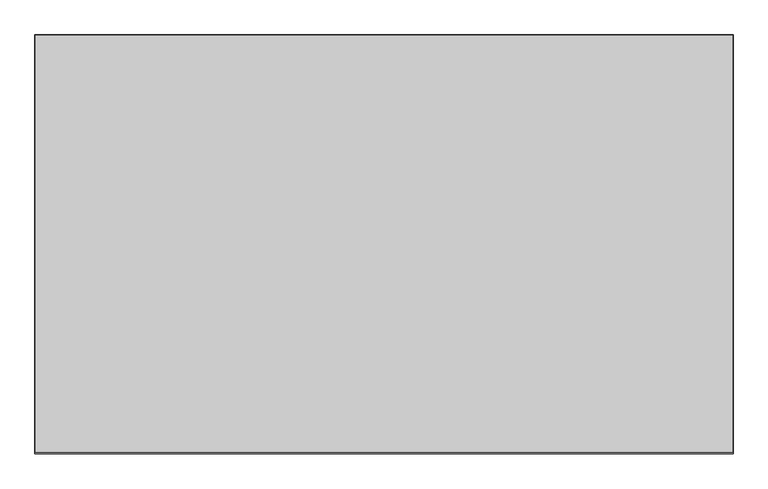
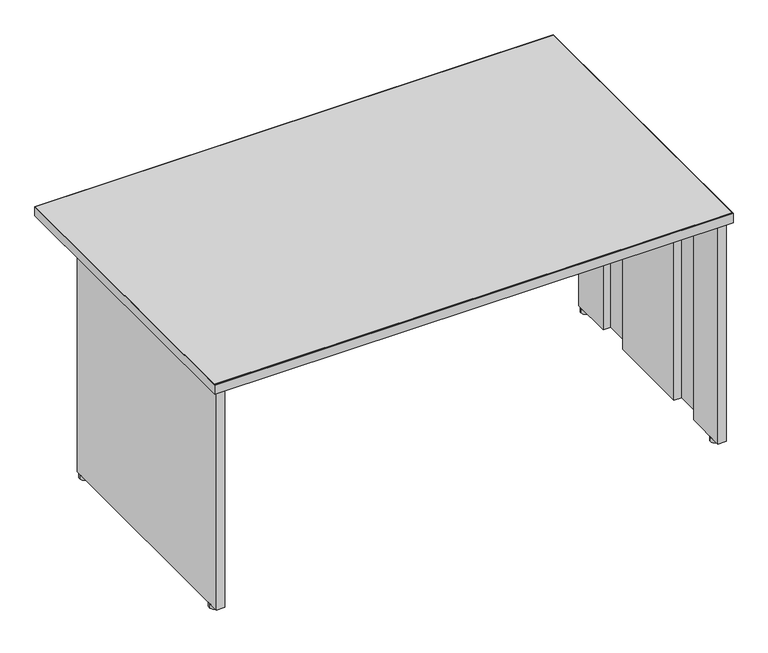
"""IFC4 building model written with IfcOpenShell, lengths in millimetres: furniture geometry, Steelcase - Kick Freestanding - Desk Shell - Partial Height Modesty Panel : 36D x 60W."""

from ifc_helpers import new_model, si_unit, point, frame, frame_2d, origin, origin_with_axes, place, context, project, spatial, polyline, circle_curve, trimmed, segment, composite_curve, outline, extrude, source, transform, mapped, element, save


def furniture_c0c023b2(model_context):
    return source(origin(), model_context, "Body", "SweptSolid", [
        extrude(outline(polyline([(677.0450425, -1152.3647597), (677.0450425, -1126.9647604), (2126.6738425, -1126.9647604), (2126.6738425, -1152.3647597), (677.0450425, -1152.3647597)])), frame((0.0, 0.0, 390.144), z_axis=(0.0, 0.0, 1.0), x_axis=(1.0, 0.0, 0.0)), (0.0, 0.0, 1.0), 304.8),
        extrude(outline(composite_curve([segment(trimmed(circle_curve(frame_2d((665.1357759, -1139.3367877)), 13.97), [point((651.1657759, -1139.3367877))], [point((679.1057759, -1139.3367877))], False, "CARTESIAN"), True, "CONTINUOUS"), segment(trimmed(circle_curve(frame_2d((665.1357759, -1139.3367877)), 13.97), [point((679.1057759, -1139.3367877))], [point((651.1657759, -1139.3367877))], False, "CARTESIAN"), True, "CONTINUOUS")], self_intersect=False)), origin_with_axes(), (0.0, 0.0, 1.0), 12.446),
        extrude(outline(composite_curve([segment(trimmed(circle_curve(frame_2d((665.1357759, -1798.4441481)), 13.97), [point((651.1657759, -1798.4441481))], [point((679.1057759, -1798.4441481))], False, "CARTESIAN"), True, "CONTINUOUS"), segment(trimmed(circle_curve(frame_2d((665.1357759, -1798.4441481)), 13.97), [point((679.1057759, -1798.4441481))], [point((651.1657759, -1798.4441481))], False, "CARTESIAN"), True, "CONTINUOUS")], self_intersect=False)), origin_with_axes(), (0.0, 0.0, 1.0), 12.446),
        extrude(outline(polyline([(2126.6738425, -1248.4529604), (2126.6738425, -1125.1867604), (2151.1594421, -1125.1867604), (2151.1594421, -1833.338741), (2126.6738421, -1833.338741), (2126.6738421, -1709.0311348), (2149.1020425, -1709.0311348), (2149.1020425, -1609.3107682), (2126.6738421, -1609.3107682), (2126.6738421, -1348.1733647), (2149.1020425, -1348.1733647), (2149.1020425, -1248.4529604), (2126.6738425, -1248.4529604)])), frame((0.0, 0.0, 12.446), z_axis=(0.0, 0.0, 1.0), x_axis=(1.0, 0.0, 0.0)), (0.0, 0.0, 1.0), 682.498),
        extrude(outline(polyline([(677.0450425, -1248.4529604), (654.6168425, -1248.4529604), (654.6168425, -1348.1733647), (677.0450429, -1348.1733647), (677.0450429, -1609.3107682), (654.6168425, -1609.3107682), (654.6168425, -1709.0311348), (677.0450429, -1709.0311348), (677.0450429, -1833.338741), (652.5594429, -1833.338741), (652.5594429, -1125.1867604), (677.0450425, -1125.1867604), (677.0450425, -1248.4529604)])), frame((0.0, 0.0, 12.446), z_axis=(0.0, 0.0, 1.0), x_axis=(1.0, 0.0, 0.0)), (0.0, 0.0, 1.0), 682.498),
        extrude(outline(polyline([(2162.8688425, -932.6293604), (2162.8688425, -1843.0669215), (640.8500425, -1843.0669215), (640.8500425, -932.6293604), (2162.8688425, -932.6293604)])), frame((0.0, 0.0, 694.944), z_axis=(0.0, 0.0, 1.0), x_axis=(1.0, 0.0, 0.0)), (0.0, 0.0, 1.0), 28.956),
        extrude(outline(polyline([(2163.8594425, -931.6387604), (2163.8594425, -1846.0387604), (639.8594425, -1846.0387604), (639.8594425, -931.6387604), (2163.8594425, -931.6387604)]), holes=[polyline([(2162.8688425, -932.6293604), (640.8500425, -932.6293604), (640.8500425, -1843.0669215), (2162.8688425, -1843.0669215), (2162.8688425, -932.6293604)])]), frame((0.0, 0.0, 694.944), z_axis=(0.0, 0.0, 1.0), x_axis=(1.0, 0.0, 0.0)), (0.0, 0.0, 1.0), 28.956),
        extrude(outline(composite_curve([segment(trimmed(circle_curve(frame_2d((2138.5831091, -1798.4441481)), 13.97), [point((2124.6131091, -1798.4441481))], [point((2152.5531091, -1798.4441481))], False, "CARTESIAN"), True, "CONTINUOUS"), segment(trimmed(circle_curve(frame_2d((2138.5831091, -1798.4441481)), 13.97), [point((2152.5531091, -1798.4441481))], [point((2124.6131091, -1798.4441481))], False, "CARTESIAN"), True, "CONTINUOUS")], self_intersect=False)), origin_with_axes(), (0.0, 0.0, 1.0), 12.446),
        extrude(outline(composite_curve([segment(trimmed(circle_curve(frame_2d((2138.5831091, -1139.3367877)), 13.97), [point((2152.5531091, -1139.3367877))], [point((2124.6131091, -1139.3367877))], False, "CARTESIAN"), True, "CONTINUOUS"), segment(trimmed(circle_curve(frame_2d((2138.5831091, -1139.3367877)), 13.97), [point((2124.6131091, -1139.3367877))], [point((2152.5531091, -1139.3367877))], False, "CARTESIAN"), True, "CONTINUOUS")], self_intersect=False)), origin_with_axes(), (0.0, 0.0, 1.0), 12.446),
    ])


if __name__ == "__main__":
    model = new_model("IFC4")
    model_context = context("Model", 3, world=origin())
    ifc_project = project(units=[si_unit("LENGTHUNIT", "METRE", prefix="MILLI")], contexts=[model_context])
    site = spatial("IfcSite", under=ifc_project)
    building = spatial("IfcBuilding", under=site)
    placement = place(None, origin())
    furniture_shape = furniture_c0c023b2(model_context)
    element("IfcFurniture", 1, ObjectType="Steelcase - Kick Freestanding - Desk Shell - Partial Height Modesty Panel : 36D x 60W", at=placement, inside=building, context=model_context, shape_type="MappedRepresentation", body=[
        mapped(furniture_shape, transform((0.0, 0.0, 0.0), x_axis=(1.0, 0.0, 0.0), y_axis=(0.0, 1.0, 0.0), z_axis=(0.0, 0.0, 1.0))),
    ])
    save(model, "model.ifc")
